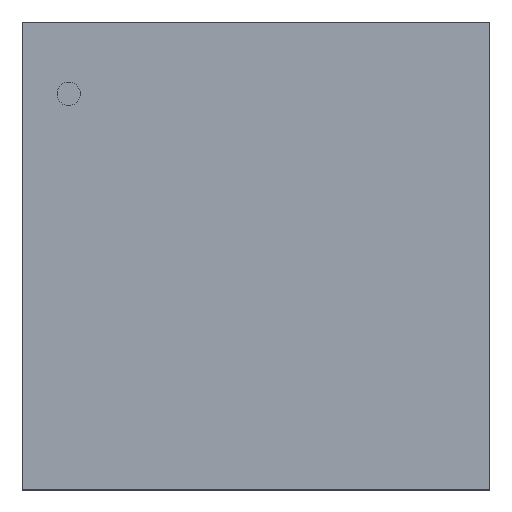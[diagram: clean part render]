
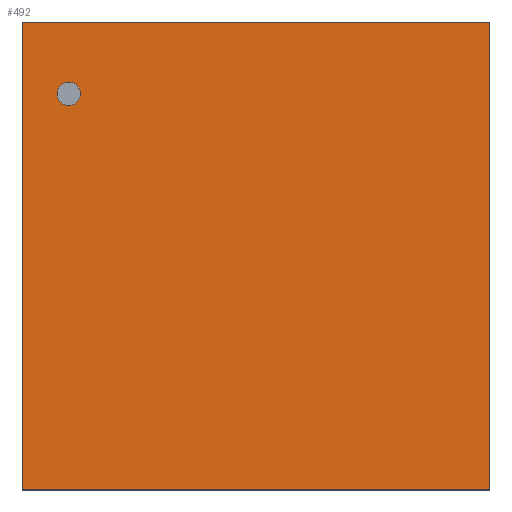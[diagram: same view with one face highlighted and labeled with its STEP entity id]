
A CAD part, top view. The second image highlights one B-rep face of the part: STEP entity #492.
In plain terms, the highlighted planar face has unit normal (0, 0, 1).
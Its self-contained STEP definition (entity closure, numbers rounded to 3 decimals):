
#268=CARTESIAN_POINT('',(2.527,-2.527,0.991));
#267=VERTEX_POINT('',#268);
#278=CARTESIAN_POINT('',(-2.527,-2.527,0.991));
#277=VERTEX_POINT('',#278);
#276=EDGE_CURVE('',#277,#267,#281,.T.);
#281=LINE('',#278,#283);
#283=VECTOR('',#284,5.055);
#284=DIRECTION('',(1.0,0.0,0.0));
#317=CARTESIAN_POINT('',(2.527,2.527,0.991));
#316=VERTEX_POINT('',#317);
#325=EDGE_CURVE('',#267,#316,#330,.T.);
#330=LINE('',#268,#332);
#332=VECTOR('',#333,5.055);
#333=DIRECTION('',(0.0,1.0,0.0));
#366=CARTESIAN_POINT('',(-2.527,2.527,0.991));
#365=VERTEX_POINT('',#366);
#374=EDGE_CURVE('',#316,#365,#379,.T.);
#379=LINE('',#317,#381);
#381=VECTOR('',#382,5.055);
#382=DIRECTION('',(-1.0,0.0,0.0));
#423=EDGE_CURVE('',#365,#277,#428,.T.);
#428=LINE('',#366,#430);
#430=VECTOR('',#431,5.055);
#431=DIRECTION('',(0.0,-1.0,0.0));
#492=ADVANCED_FACE('',(#498),#493,.T.);
#493=PLANE('',#494);
#494=AXIS2_PLACEMENT_3D('',#495,#496,#497);
#495=CARTESIAN_POINT('',(-2.527,-2.527,0.991));
#496=DIRECTION('',(0.0,0.0,1.0));
#497=DIRECTION('',(0.,1.,0.));
#498=FACE_OUTER_BOUND('',#499,.T.);
#499=EDGE_LOOP('',(#500,#510,#520,#530));
#500=ORIENTED_EDGE('',*,*,#276,.T.);
#510=ORIENTED_EDGE('',*,*,#325,.T.);
#520=ORIENTED_EDGE('',*,*,#374,.T.);
#530=ORIENTED_EDGE('',*,*,#423,.T.);
